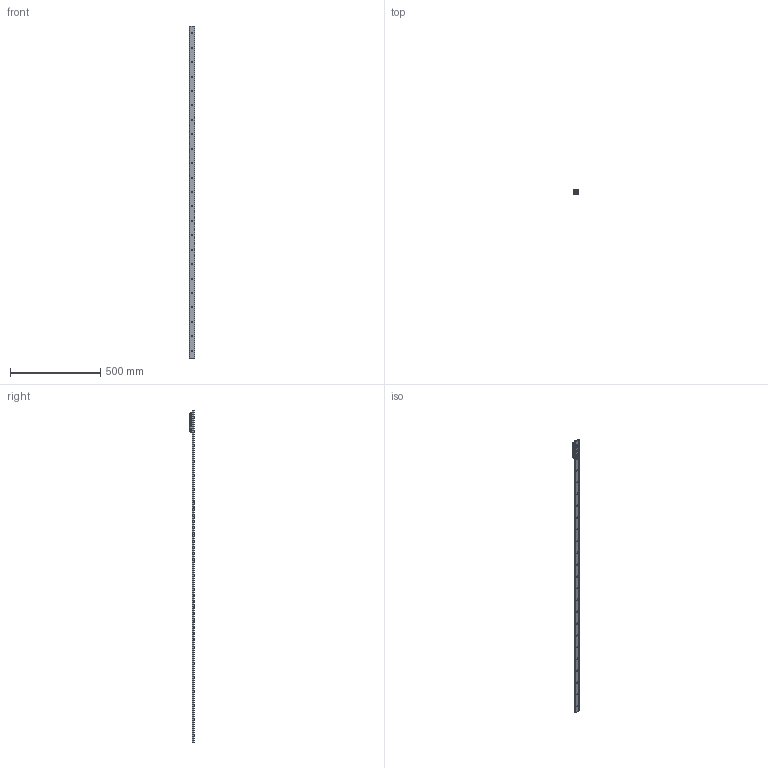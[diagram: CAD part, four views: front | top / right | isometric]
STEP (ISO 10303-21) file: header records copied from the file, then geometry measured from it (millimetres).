
FILE_DESCRIPTION( ( 'STEP AP214' ), '1' );
FILE_NAME( 'p:/temp/worker_34/temp/exporttempdir_4756_40_N6q91/format_2/TGV-01840_1_RV28G-3.stp', '2020-11-20T16:37:14', ( 'License CC BY-ND 4.0' ), ( 'CADENAS' ), ' ', 'PARTsolutions', ' ' );
FILE_SCHEMA( ( 'AUTOMOTIVE_DESIGN { 1 0 10303 214 1 1 1 1 }' ) );
Length unit declared in the file: millimetre
Products named in the file (6): TGV-01840/1/RV28G-3; _TGV28-1840-(3-1); _RV28G-3-slider; _RGNV28R; _RGAV28R; _WR28G-01
Assembly tree (7 placements, depth 2):
  TGV-01840/1/RV28G-3
    _TGV28-1840-(3-1)
    _RV28G-3-slider
    _RGNV28R  x2
    _RGAV28R
    _WR28G-01  x2
Bounding box: 28 x 24 x 1840 mm (x, y, z)
Volume: 302151.5 mm3; surface area: 193234.9 mm2
Topology: 7 solids, 7 shells, 1058 faces, 2760 edges, 1798 vertices
Faces by surface type: plane 657, cylinder 303, cone 63, bspline 26, torus 9
Full cylindrical faces by diameter (mm): 1.27 x4, 2 x2, 2.5 x6, 4 x4, 4.134 x4, 4.2 x3, 5 x3, 5.5 x3, 5.75 x23, 7 x5, 7.5 x1, 8 x6, 10.8 x3, 17 x3, 20.75 x6
Entity records: 25661 total; most frequent: CARTESIAN_POINT 4059, DIRECTION 3430, ORIENTED_EDGE 3132, EDGE_CURVE 1566, AXIS2_PLACEMENT_3D 1320, VERTEX_POINT 1098, EDGE_LOOP 929, LINE 790
